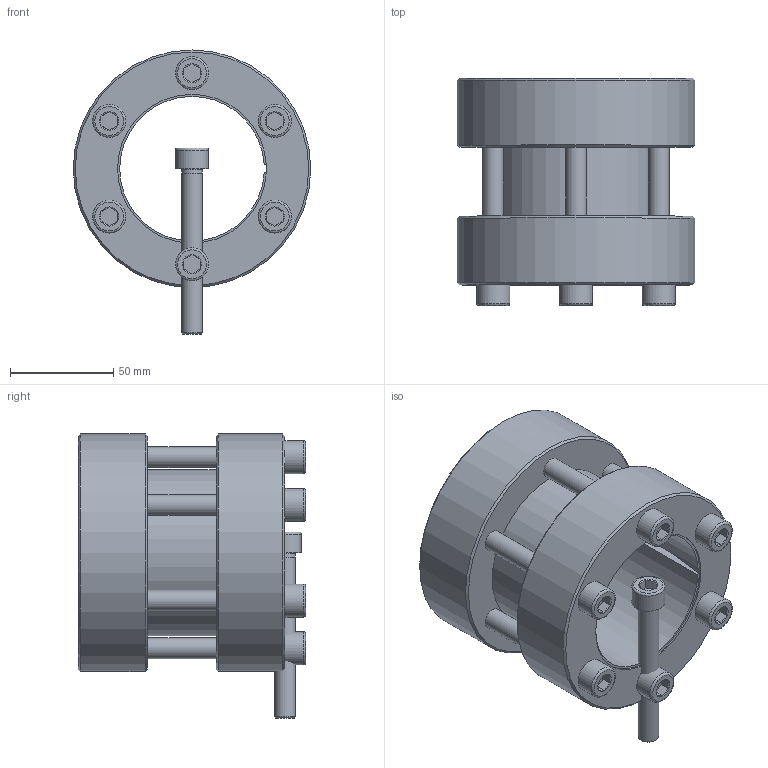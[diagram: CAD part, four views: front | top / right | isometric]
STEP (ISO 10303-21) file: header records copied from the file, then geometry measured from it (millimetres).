
FILE_DESCRIPTION( ( 'Unknown' ), '1' );
FILE_NAME( 'C:/Dokumente und Einstellungen/Sven/Desktop/homepage/cad - homepage/KBS95/KBS 95 - 70 x 115.stp', 'Unknown', ( 'Unknown' ), ( 'Unknown' ), 'XStep 1.0', 'Unknown', ' ' );
FILE_SCHEMA( ( 'automotive_design' ) );
Length unit declared in the file: millimetre
Products named in the file (3): Assem1; KBS 95 - 70 x 115; ISO EN DIN 4762 M10x80
Bounding box: 115 x 110 x 137.5 mm (x, y, z)
Volume: 942260.7 mm3; surface area: 201990.5 mm2
Topology: 9 solids, 9 shells, 239 faces, 499 edges, 306 vertices
Faces by surface type: plane 104, cone 61, cylinder 60, torus 14
Full cylindrical faces by diameter (mm): 9 x7, 10 x38, 16 x7, 115 x4
Entity records: 1838 total; most frequent: CARTESIAN_POINT 305, DIRECTION 280, ORIENTED_EDGE 206, AXIS2_PLACEMENT_3D 122, EDGE_LOOP 114, EDGE_CURVE 103, VERTEX_POINT 79, FACE_OUTER_BOUND 77
